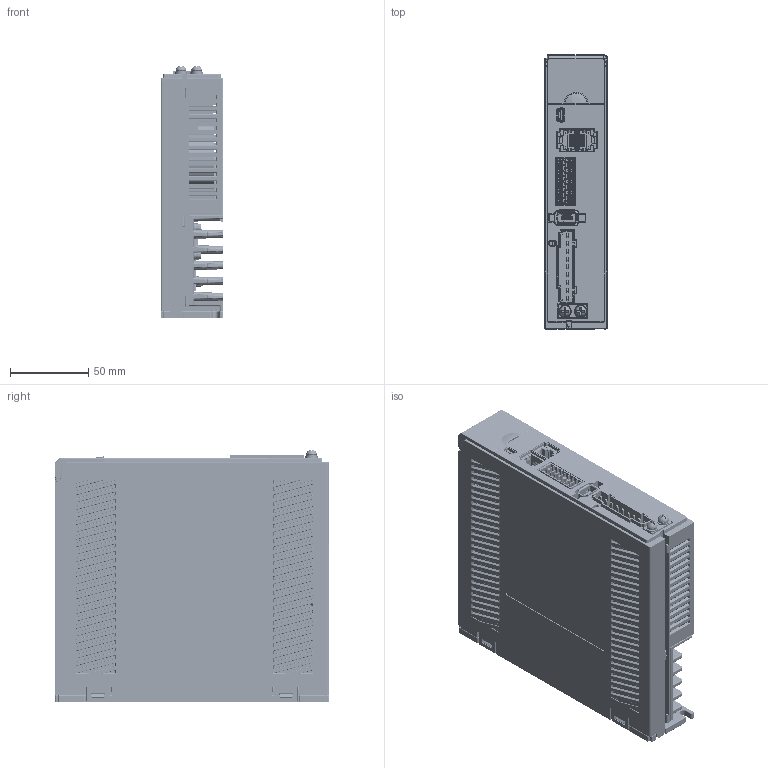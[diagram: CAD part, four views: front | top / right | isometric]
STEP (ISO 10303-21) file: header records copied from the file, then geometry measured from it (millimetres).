
FILE_DESCRIPTION((''),'2;1');
FILE_NAME('MSBR-1','2022-01-06T',('sunjun'),(''),'PRO/ENGINEER BY PARAMETRIC TECHNOLOGY CORPORATION, 2008090','PRO/ENGINEER BY PARAMETRIC TECHNOLOGY CORPORATION, 2008090','');
FILE_SCHEMA(('CONFIG_CONTROL_DESIGN'));
Products named in the file (1): MSBR-1
Bounding box: 40 x 175 x 161.49 mm (x, y, z)
Volume: 378750.7 mm3; surface area: 281928.1 mm2
Topology: 1 solids, 9 shells, 8518 faces, 22703 edges, 14023 vertices
Faces by surface type: plane 4788, cylinder 2484, bspline 385, cone 301, torus 284, sphere 238, extrusion 38
Entity records: 286407 total; most frequent: CARTESIAN_POINT 81348, ORIENTED_EDGE 44790, DIRECTION 38997, EDGE_CURVE 22395, VECTOR 15579, LINE 15541, VERTEX_POINT 14021, AXIS2_PLACEMENT_3D 11709
